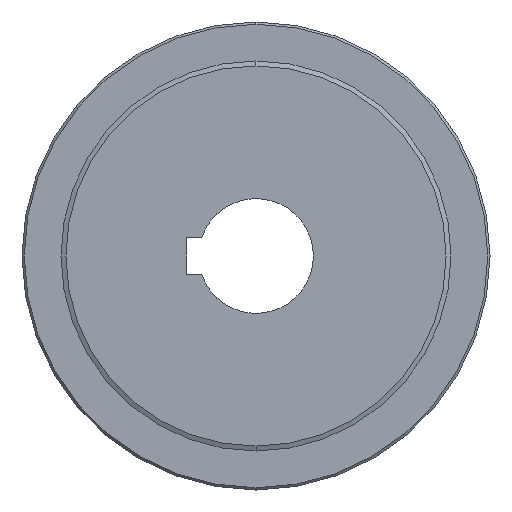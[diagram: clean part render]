
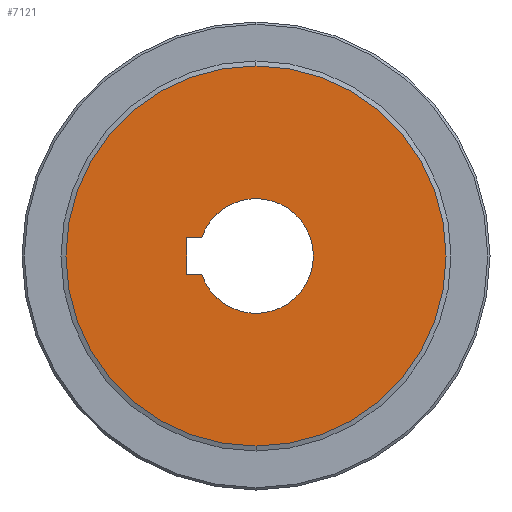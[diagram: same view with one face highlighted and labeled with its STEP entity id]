
A CAD part, left-side view. The second image highlights one B-rep face of the part: STEP entity #7121.
In plain terms, the highlighted planar face has unit normal (-1, 0, 0).
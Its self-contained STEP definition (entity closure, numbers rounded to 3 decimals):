
#30 = CARTESIAN_POINT ( 'NONE',  ( -21., 0., 0. ) ) ;
#204 = VERTEX_POINT ( 'NONE', #4548 ) ;
#308 = DIRECTION ( 'NONE',  ( 0., 1., 0. ) ) ;
#342 = DIRECTION ( 'NONE',  ( -1., 0., 0. ) ) ;
#701 = EDGE_CURVE ( 'NONE', #17612, #18184, #10324, .T. ) ;
#1118 = EDGE_CURVE ( 'NONE', #18184, #7205, #12422, .T. ) ;
#1204 = CARTESIAN_POINT ( 'NONE',  ( -21., 15.143, -4. ) ) ;
#1502 = CARTESIAN_POINT ( 'NONE',  ( -21., 0., 0. ) ) ;
#1514 = DIRECTION ( 'NONE',  ( 0., -1., 0. ) ) ;
#1560 = FACE_BOUND ( 'NONE', #19677, .T. ) ;
#1956 = CIRCLE ( 'NONE', #13683, 12.5 ) ;
#2133 = CARTESIAN_POINT ( 'NONE',  ( -21., 0., 0. ) ) ;
#2157 = VERTEX_POINT ( 'NONE', #6306 ) ;
#2329 = ORIENTED_EDGE ( 'NONE', *, *, #4565, .F. ) ;
#2431 = AXIS2_PLACEMENT_3D ( 'NONE', #9126, #15567, #13978 ) ;
#2552 = VECTOR ( 'NONE', #5318, 1000. ) ;
#2790 = CIRCLE ( 'NONE', #3802, 12.5 ) ;
#3020 = CARTESIAN_POINT ( 'NONE',  ( -21., 15.143, -4. ) ) ;
#3138 = CARTESIAN_POINT ( 'NONE',  ( -21., 0., 0. ) ) ;
#3802 = AXIS2_PLACEMENT_3D ( 'NONE', #2133, #18420, #12071 ) ;
#4548 = CARTESIAN_POINT ( 'NONE',  ( -21., 0., 41.428 ) ) ;
#4565 = EDGE_CURVE ( 'NONE', #7205, #2157, #2790, .T. ) ;
#4620 = ORIENTED_EDGE ( 'NONE', *, *, #12161, .T. ) ;
#4659 = CARTESIAN_POINT ( 'NONE',  ( -21., 15.143, 4. ) ) ;
#5318 = DIRECTION ( 'NONE',  ( 0., 0., -1. ) ) ;
#5452 = CIRCLE ( 'NONE', #17204, 41.428 ) ;
#6306 = CARTESIAN_POINT ( 'NONE',  ( -21., -12.5, 0. ) ) ;
#7121 = ADVANCED_FACE ( 'NONE', ( #20685, #1560 ), #17840, .T. ) ;
#7205 = VERTEX_POINT ( 'NONE', #19520 ) ;
#7210 = AXIS2_PLACEMENT_3D ( 'NONE', #3138, #12978, #12872 ) ;
#7891 = DIRECTION ( 'NONE',  ( -1., 0., 0. ) ) ;
#8029 = ORIENTED_EDGE ( 'NONE', *, *, #20389, .F. ) ;
#8274 = CARTESIAN_POINT ( 'NONE',  ( -21., 15.143, 4. ) ) ;
#8781 = CIRCLE ( 'NONE', #2431, 41.428 ) ;
#9068 = VERTEX_POINT ( 'NONE', #18264 ) ;
#9126 = CARTESIAN_POINT ( 'NONE',  ( -21., 0., 0. ) ) ;
#9656 = ORIENTED_EDGE ( 'NONE', *, *, #12008, .T. ) ;
#9810 = ORIENTED_EDGE ( 'NONE', *, *, #10379, .F. ) ;
#10324 = LINE ( 'NONE', #20014, #2552 ) ;
#10379 = EDGE_CURVE ( 'NONE', #12954, #17612, #13102, .T. ) ;
#10481 = VECTOR ( 'NONE', #308, 1000. ) ;
#10603 = VECTOR ( 'NONE', #1514, 1000. ) ;
#11209 = EDGE_LOOP ( 'NONE', ( #9656, #4620 ) ) ;
#12008 = EDGE_CURVE ( 'NONE', #9068, #204, #5452, .T. ) ;
#12071 = DIRECTION ( 'NONE',  ( 0., 0., 1. ) ) ;
#12161 = EDGE_CURVE ( 'NONE', #204, #9068, #8781, .T. ) ;
#12422 = LINE ( 'NONE', #1204, #10603 ) ;
#12872 = DIRECTION ( 'NONE',  ( 0., 0., 1. ) ) ;
#12895 = ORIENTED_EDGE ( 'NONE', *, *, #1118, .F. ) ;
#12954 = VERTEX_POINT ( 'NONE', #15956 ) ;
#12978 = DIRECTION ( 'NONE',  ( -1., 0., 0. ) ) ;
#13102 = LINE ( 'NONE', #8274, #10481 ) ;
#13683 = AXIS2_PLACEMENT_3D ( 'NONE', #1502, #7891, #19150 ) ;
#13978 = DIRECTION ( 'NONE',  ( 0., 0., 1. ) ) ;
#14315 = DIRECTION ( 'NONE',  ( 0., 0., 1. ) ) ;
#15567 = DIRECTION ( 'NONE',  ( -1., 0., 0. ) ) ;
#15741 = ORIENTED_EDGE ( 'NONE', *, *, #701, .F. ) ;
#15956 = CARTESIAN_POINT ( 'NONE',  ( -21., 11.843, 4. ) ) ;
#17204 = AXIS2_PLACEMENT_3D ( 'NONE', #30, #342, #14315 ) ;
#17612 = VERTEX_POINT ( 'NONE', #4659 ) ;
#17840 = PLANE ( 'NONE',  #7210 ) ;
#18184 = VERTEX_POINT ( 'NONE', #3020 ) ;
#18264 = CARTESIAN_POINT ( 'NONE',  ( -21., 0., -41.428 ) ) ;
#18420 = DIRECTION ( 'NONE',  ( -1., 0., 0. ) ) ;
#19150 = DIRECTION ( 'NONE',  ( 0., 0., 1. ) ) ;
#19520 = CARTESIAN_POINT ( 'NONE',  ( -21., 11.843, -4. ) ) ;
#19677 = EDGE_LOOP ( 'NONE', ( #12895, #15741, #9810, #8029, #2329 ) ) ;
#20014 = CARTESIAN_POINT ( 'NONE',  ( -21., 15.143, 4. ) ) ;
#20389 = EDGE_CURVE ( 'NONE', #2157, #12954, #1956, .T. ) ;
#20685 = FACE_OUTER_BOUND ( 'NONE', #11209, .T. ) ;
